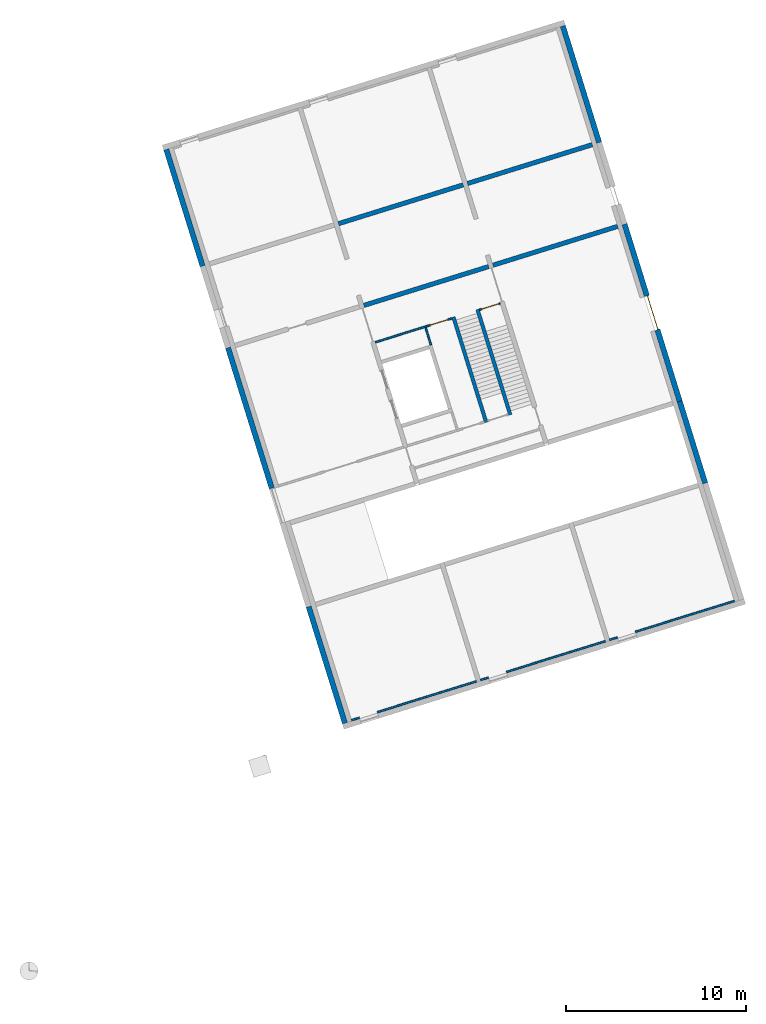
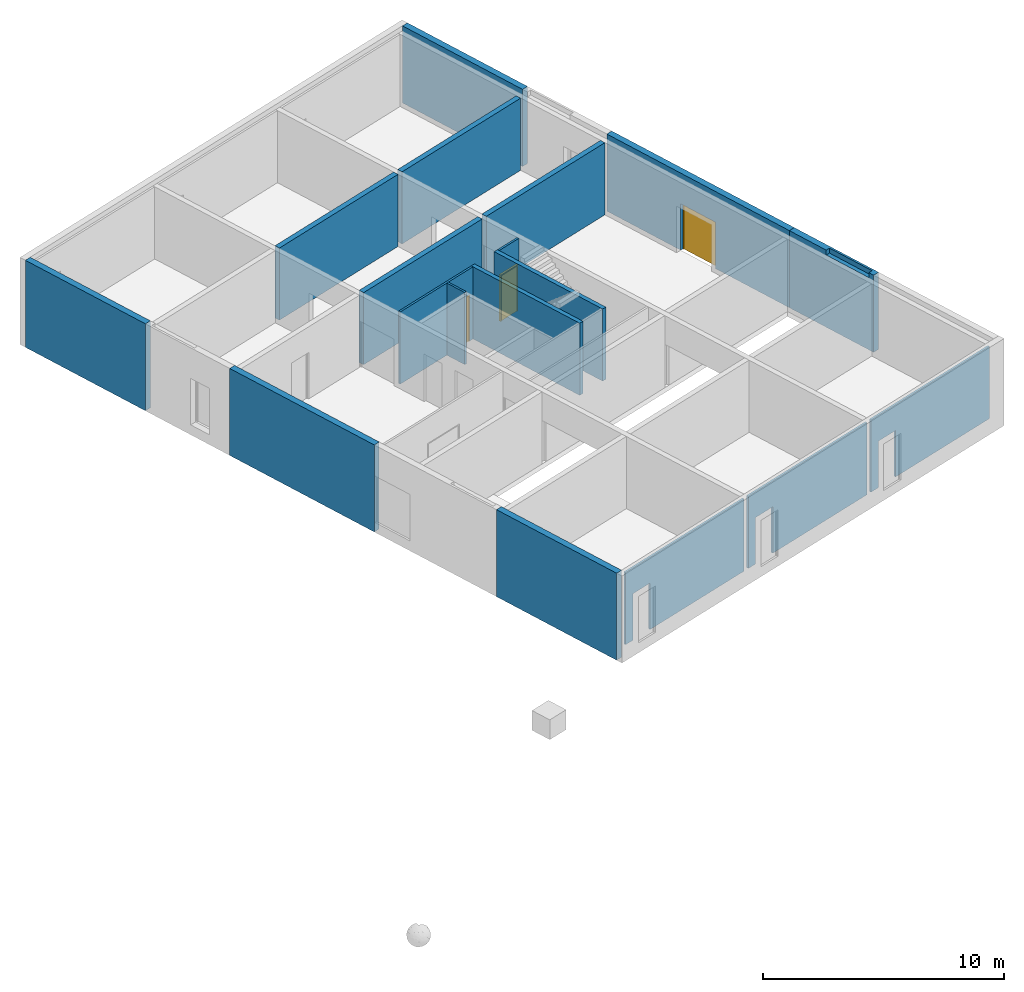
# One storey, part 2 of 6: 18 walls, 3 doors, 12 openings.
"""IFC4 building model written with IfcOpenShell, lengths in metres."""

from ifc_helpers import new_model, entity, si_unit, converted_unit, direction, frame, origin, place, context, subcontext, project, spatial, indexed_curve, outline, extrude, polygons, source, transform, mapped, material, constituent, constituent_set, type_object, type_shapes, element, fill, save


model = new_model("IFC4")

# Units and contexts
model_context = context("Model", 3, precision=1e-05, world=origin(), true_north=direction((6.12323399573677e-17, 1.0)))
body_context = subcontext(model_context, "Body", "Model", "MODEL_VIEW")
ifc_project = project(units=[si_unit("LENGTHUNIT", "METRE"), si_unit("AREAUNIT", "SQUARE_METRE"), si_unit("VOLUMEUNIT", "CUBIC_METRE"), converted_unit("PLANEANGLEUNIT", "DEGREE", entity("IfcPlaneAngleMeasure", 0.0174532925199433), si_unit("PLANEANGLEUNIT", "RADIAN"), dimensions=[0, 0, 0, 0, 0, 0, 0])], contexts=[model_context])

# Site, building, storey
site_placement = place(None, frame((13.1347999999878, 11.9886000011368, 0.0), z_axis=(0.0, 0.0, 1.0), x_axis=(0.954770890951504, 0.297342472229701, 0.0)))
site = spatial("IfcSite", under=ifc_project, at=site_placement, Name="Schiehaven", CompositionType="ELEMENT")
building_placement = place(site_placement, origin())
building = spatial("IfcBuilding", under=site, at=building_placement, Name="VORM huis", CompositionType="ELEMENT")
storey_placement = place(building_placement, origin())
storey = spatial("IfcBuildingStorey", under=building, at=storey_placement, Name="00 begane grond", CompositionType="ELEMENT", Elevation=0.0)

# Wall
ifc_material_1 = material(Name="beton_gewapend_ihw", Category="Miscellaneous")
wall_type_1 = type_object("IfcWallType", Name="Basic Wall:28_WA_skelet_wand 250mm_gen", PredefinedType="STANDARD")
wall_1_placement = place(storey_placement, frame((12.6250000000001, 22.2, 0.0)))
element("IfcWall", 1, at=wall_1_placement, inside=storey, type_object=wall_type_1, material=ifc_material_1, Name="Constructieve wand", ObjectType="Wand", PredefinedType="NOTDEFINED", context=body_context, shape_type="SweptSolid", body=[
    extrude(outline(indexed_curve([(7.25000000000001, 0.125000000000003), (-4.73312500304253e-16, 0.125000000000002), (4.73312500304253e-16, -0.125000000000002), (7.25000000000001, -0.125), (7.25000000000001, 0.125000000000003)], self_intersect=False)), origin(), (0.0, 0.0, 1.0), 3.65),
])

# Wall, opening
ifc_material_2 = material(Name="ntb_ntb_ntb", Category="Miscellaneous")
wall_type_2 = type_object("IfcWallType", Name="Basic Wall:21_WA_gevel_binnenspouwwand 100mm_gen", PredefinedType="STANDARD")
wall_2_placement = place(storey_placement, frame((5.12500000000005, 0.424999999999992, 0.0)))
wall_2 = element("IfcWall", 2, at=wall_2_placement, inside=storey, type_object=wall_type_2, material=ifc_material_2, Name="Binnenspouwblad", ObjectType="Wand", PredefinedType="NOTDEFINED", context=body_context, shape_type="Tessellation", body=[
    polygons([(1.49999999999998, -0.05, 2.34999999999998), (1.49999999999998, -0.05, 0.0), (7.24999999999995, -0.05, 0.0), (7.24999999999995, -0.05, 3.65), (-3.03464150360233e-16, -0.05, 3.65), (-3.03464150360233e-16, -0.05, 0.0), (0.449999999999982, -0.05, 0.0), (0.449999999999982, -0.05, 2.34999999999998), (7.24999999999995, 0.05, 0.0), (1.49999999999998, 0.0499999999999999, 0.0), (1.49999999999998, 0.0499999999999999, 2.34999999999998), (0.449999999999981, 0.05, 2.34999999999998), (0.449999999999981, 0.05, 0.0), (-6.7315249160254e-16, 0.05, 0.0), (-6.7315249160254e-16, 0.05, 3.65), (7.24999999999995, 0.05, 3.65)], [[[1, 2, 3, 4, 5, 6, 7, 8]], [[9, 10, 11, 12, 13, 14, 15, 16]], [[7, 6, 14, 13]], [[4, 3, 9, 16]], [[5, 4, 16, 15]], [[6, 5, 15, 14]], [[13, 12, 8, 7]], [[11, 10, 2, 1]], [[12, 11, 1, 8]], [[3, 2, 10, 9]]], closed=True),
])
opening_1_placement = place(wall_2_placement, origin())
element("IfcOpeningElement", 3, at=opening_1_placement, cuts=wall_2, Name="Woningtoegangsdeur", PredefinedType="OPENING", context=body_context, shape_type="SweptSolid", body=[
    extrude(outline(indexed_curve([(-0.525000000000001, -1.17499999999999), (0.525000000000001, -1.17499999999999), (0.525, 1.17499999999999), (-0.525000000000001, 1.17499999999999), (-0.525000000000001, -1.17499999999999)], self_intersect=False)), frame((0.974999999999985, -1.57399999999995, 1.17499999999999), z_axis=(0.0, 1.0, 0.0), x_axis=(1.0, 0.0, 0.0)), (0.0, 0.0, 1.0), 3.048),
])

wall_3_placement = place(storey_placement, frame((19.875, 0.424999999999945, 0.0), z_axis=(0.0, 0.0, 1.0), x_axis=(-1.0, 0.0, 0.0)))
wall_3 = element("IfcWall", 4, at=wall_3_placement, inside=storey, type_object=wall_type_2, material=ifc_material_2, Name="Binnenspouwblad", ObjectType="Wand", PredefinedType="NOTDEFINED", context=body_context, shape_type="Tessellation", body=[
    polygons([(-1.11061301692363e-15, -0.05, 0.0), (5.74999999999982, -0.05, 0.0), (5.74999999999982, -0.05, 2.34999999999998), (6.79999999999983, -0.05, 2.34999999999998), (6.79999999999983, -0.05, 0.0), (7.24999999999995, -0.0499999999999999, 0.0), (7.24999999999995, -0.0499999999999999, 3.65), (-1.11061301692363e-15, -0.05, 3.65), (5.74999999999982, 0.05, 2.34999999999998), (5.74999999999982, 0.05, 0.0), (-1.7886878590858e-15, 0.05, 0.0), (-1.7886878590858e-15, 0.05, 3.65), (7.24999999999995, 0.05, 3.65), (7.24999999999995, 0.05, 0.0), (6.79999999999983, 0.05, 0.0), (6.79999999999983, 0.05, 2.34999999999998)], [[[1, 2, 3, 4, 5, 6, 7, 8]], [[9, 10, 11, 12, 13, 14, 15, 16]], [[11, 10, 2, 1]], [[7, 6, 14, 13]], [[8, 7, 13, 12]], [[1, 8, 12, 11]], [[5, 4, 16, 15]], [[3, 2, 10, 9]], [[4, 3, 9, 16]], [[15, 14, 6, 5]]], closed=True),
])
opening_2_placement = place(wall_3_placement, origin())
element("IfcOpeningElement", 5, at=opening_2_placement, cuts=wall_3, Name="Woningtoegangsdeur", PredefinedType="OPENING", context=body_context, shape_type="SweptSolid", body=[
    extrude(outline(indexed_curve([(-1.17499999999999, -0.525), (1.17499999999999, -0.525), (1.17499999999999, 0.525000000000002), (-1.17499999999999, 0.525000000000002), (-1.17499999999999, -0.525)], self_intersect=False)), frame((6.27499999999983, -1.47400000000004, 1.17499999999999), z_axis=(0.0, 1.0, 0.0), x_axis=(0.0, 0.0, -1.0)), (0.0, 0.0, 1.0), 3.048),
])

wall_4_placement = place(storey_placement, frame((20.1250000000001, 0.424999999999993, 0.0)))
wall_4 = element("IfcWall", 6, at=wall_4_placement, inside=storey, type_object=wall_type_2, material=ifc_material_2, Name="Binnenspouwblad", ObjectType="Wand", PredefinedType="NOTDEFINED", context=body_context, shape_type="Tessellation", body=[
    polygons([(1.50000000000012, -0.05, 2.34999999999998), (1.50000000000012, -0.05, 0.0), (7.24999999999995, -0.05, 0.0), (7.24999999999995, -0.05, 3.65), (-1.38633127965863e-15, -0.05, 3.65), (-1.38633127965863e-15, -0.05, 0.0), (0.450000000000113, -0.05, 0.0), (0.450000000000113, -0.05, 2.34999999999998), (7.24999999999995, 0.05, 0.0), (1.50000000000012, 0.0499999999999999, 0.0), (1.50000000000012, 0.0499999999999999, 2.34999999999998), (0.450000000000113, 0.05, 2.34999999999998), (0.450000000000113, 0.05, 0.0), (-1.75601962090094e-15, 0.05, 0.0), (-1.75601962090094e-15, 0.05, 3.65), (7.24999999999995, 0.05, 3.65)], [[[1, 2, 3, 4, 5, 6, 7, 8]], [[9, 10, 11, 12, 13, 14, 15, 16]], [[7, 6, 14, 13]], [[4, 3, 9, 16]], [[5, 4, 16, 15]], [[6, 5, 15, 14]], [[13, 12, 8, 7]], [[11, 10, 2, 1]], [[12, 11, 1, 8]], [[3, 2, 10, 9]]], closed=True),
])
opening_3_placement = place(wall_4_placement, origin())
element("IfcOpeningElement", 7, at=opening_3_placement, cuts=wall_4, Name="Woningtoegangsdeur", PredefinedType="OPENING", context=body_context, shape_type="SweptSolid", body=[
    extrude(outline(indexed_curve([(-0.525000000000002, -1.17499999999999), (0.525000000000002, -1.17499999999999), (0.524999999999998, 1.17499999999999), (-0.525000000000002, 1.17499999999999), (-0.525000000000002, -1.17499999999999)], self_intersect=False)), frame((0.97500000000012, -1.57399999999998, 1.17499999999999), z_axis=(0.0, 1.0, 0.0), x_axis=(1.0, 0.0, 0.0)), (0.0, 0.0, 1.0), 3.048),
])

wall_type_3 = type_object("IfcWallType", Name="Basic Wall: 300mm_gen", PredefinedType="STANDARD")
wall_5_placement = place(storey_placement, frame((4.72500000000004, 0.375000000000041, -0.5), z_axis=(0.0, 0.0, 1.0), x_axis=(0.0, 1.0, 0.0)))
wall_5 = element("IfcWall", 8, at=wall_5_placement, inside=storey, type_object=wall_type_3, material=ifc_material_2, Name="Gevelwand", ObjectType="Wand", PredefinedType="NOTDEFINED", context=body_context, shape_type="Tessellation", body=[
    polygons([(4.06075173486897e-16, -0.15, 0.0), (6.77500000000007, -0.15, 0.0), (6.77500000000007, -0.15, 4.4), (8.79829542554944e-16, -0.15, 4.4), (8.79829542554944e-16, -0.15, 4.15), (3.38395977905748e-16, -0.15, 0.5), (2.70716782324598e-16, 0.15, 0.0), (2.70716782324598e-16, 0.15, 4.4), (6.77500000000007, 0.150000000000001, 4.4), (6.77500000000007, 0.150000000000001, 0.0)], [[[1, 2, 3, 4, 5, 6]], [[7, 8, 9, 10]], [[2, 1, 7, 10]], [[3, 2, 10, 9]], [[4, 3, 9, 8]], [[1, 6, 5, 4, 8, 7]]], closed=True),
])
opening_4_placement = place(wall_5_placement, origin())
element("IfcOpeningElement", 9, at=opening_4_placement, cuts=wall_5, Name="Vluchtdeur", PredefinedType="OPENING", context=body_context, shape_type="SweptSolid", body=[
    extrude(outline(indexed_curve([(-0.525000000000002, -1.17499999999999), (0.525000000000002, -1.17499999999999), (0.524999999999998, 1.17499999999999), (-0.525000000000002, 1.17499999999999), (-0.525000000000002, -1.17499999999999)], self_intersect=False)), frame((23.4999999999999, -1.92400000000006, 1.67499999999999), z_axis=(0.0, 1.0, 0.0), x_axis=(1.0, 0.0, 0.0)), (0.0, 0.0, 1.0), 3.048),
])

# Wall
wall_6_placement = place(storey_placement, frame((27.7750000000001, 33.7249999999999, 0.0), z_axis=(0.0, 0.0, 1.0), x_axis=(0.0, -1.0, 0.0)))
element("IfcWall", 10, at=wall_6_placement, inside=storey, type_object=wall_type_3, material=ifc_material_2, Name="Gevelwand", ObjectType="Wand", PredefinedType="NOTDEFINED", context=body_context, shape_type="SweptSolid", body=[
    extrude(outline(indexed_curve([(6.77500000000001, 0.15), (-2.81467268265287e-16, 0.150000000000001), (2.81467268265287e-16, -0.150000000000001), (6.77500000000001, -0.150000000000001), (6.77500000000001, 0.15)], self_intersect=False)), origin(), (0.0, 0.0, 1.0), 3.9),
])

# Wall, opening
wall_7_placement = place(storey_placement, frame((4.7250000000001, 26.95, -0.5), z_axis=(0.0, 0.0, 1.0), x_axis=(0.0, 1.0, 0.0)))
wall_7 = element("IfcWall", 11, at=wall_7_placement, inside=storey, type_object=wall_type_3, material=ifc_material_2, Name="Gevelwand", ObjectType="Wand", PredefinedType="NOTDEFINED", context=body_context, shape_type="Tessellation", body=[
    polygons([(0.0, -0.15, 0.0), (6.77499999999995, -0.15, 0.0), (6.77499999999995, -0.15, 0.5), (6.77499999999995, -0.15, 4.15), (6.77499999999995, -0.15, 4.4), (0.0, -0.15, 4.4), (0.0, 0.15, 0.0), (0.0, 0.15, 4.4), (6.77499999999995, 0.15, 4.4), (6.77499999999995, 0.15, 0.0)], [[[1, 2, 3, 4, 5, 6]], [[7, 8, 9, 10]], [[2, 1, 7, 10]], [[6, 5, 9, 8]], [[1, 6, 8, 7]], [[5, 4, 3, 2, 10, 9]]], closed=True),
])
opening_5_placement = place(wall_7_placement, origin())
element("IfcOpeningElement", 12, at=opening_5_placement, cuts=wall_7, Name="Vluchtdeur", PredefinedType="OPENING", context=body_context, shape_type="SweptSolid", body=[
    extrude(outline(indexed_curve([(-0.525000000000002, -1.17499999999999), (0.525000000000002, -1.17499999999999), (0.524999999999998, 1.17499999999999), (-0.525000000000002, 1.17499999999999), (-0.525000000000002, -1.17499999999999)], self_intersect=False)), frame((-3.07500000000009, -1.92400000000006, 1.67499999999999), z_axis=(0.0, 1.0, 0.0), x_axis=(1.0, 0.0, 0.0)), (0.0, 0.0, 1.0), 3.048),
])

# Wall
wall_8_placement = place(storey_placement, frame((27.7750000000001, 11.905, 0.0), z_axis=(0.0, 0.0, 1.0), x_axis=(0.0, -1.0, 0.0)))
element("IfcWall", 13, at=wall_8_placement, inside=storey, type_object=wall_type_3, material=ifc_material_2, Name="Gevelwand", ObjectType="Wand", PredefinedType="NOTDEFINED", context=body_context, shape_type="Tessellation", body=[
    polygons([(0.0, -0.150000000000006, 0.0), (4.75499999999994, -0.150000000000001, 0.0), (4.75499999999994, -0.150000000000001, 3.9), (4.4799999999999, -0.150000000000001, 3.9), (4.4799999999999, -0.150000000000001, 3.65), (2.0799999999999, -0.150000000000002, 3.65), (2.0799999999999, -0.150000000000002, 3.9), (0.0, -0.150000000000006, 3.9), (4.75499999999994, 0.15, 0.0), (-1.77635683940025e-15, 0.149999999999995, 0.0), (-1.77635683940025e-15, 0.149999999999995, 3.9), (4.75499999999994, 0.15, 3.9), (2.0799999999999, 0.0499999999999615, 3.9), (4.47999999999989, 0.0499999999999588, 3.9), (4.47999999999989, 0.0499999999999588, 3.65), (2.0799999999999, 0.0499999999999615, 3.65)], [[[1, 2, 3, 4, 5, 6, 7, 8]], [[9, 10, 11, 12]], [[2, 1, 10, 9]], [[3, 2, 9, 12]], [[12, 11, 8, 7, 13, 14, 4, 3]], [[1, 8, 11, 10]], [[15, 16, 6, 5]], [[14, 15, 5, 4]], [[16, 15, 14, 13]], [[16, 13, 7, 6]]], closed=True),
])

# Wall, openings, door
wall_9_placement = place(storey_placement, frame((27.7750000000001, 22.2, 0.0), z_axis=(0.0, 0.0, 1.0), x_axis=(0.0, -1.0, 0.0)))
wall_9 = element("IfcWall", 14, at=wall_9_placement, inside=storey, type_object=wall_type_3, material=ifc_material_2, Name="Gevelwand", ObjectType="Wand", PredefinedType="NOTDEFINED", context=body_context, shape_type="Tessellation", body=[
    polygons([(6.13249999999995, -0.15, 2.34999999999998), (6.13249999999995, -0.15, 0.0), (10.295, -0.150000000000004, 0.0), (10.295, -0.150000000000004, 3.9), (0.0, -0.15, 3.9), (0.0, -0.15, 0.0), (4.16749999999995, -0.149999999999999, 0.0), (4.16749999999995, -0.149999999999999, 2.34999999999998), (10.295, 0.149999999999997, 0.0), (6.13249999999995, 0.150000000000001, 0.0), (6.13249999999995, 0.150000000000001, 2.34999999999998), (4.16749999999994, 0.150000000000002, 2.34999999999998), (4.16749999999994, 0.150000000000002, 0.0), (-4.33146851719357e-15, 0.150000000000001, 0.0), (-4.33146851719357e-15, 0.150000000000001, 3.9), (10.295, 0.149999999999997, 3.9)], [[[1, 2, 3, 4, 5, 6, 7, 8]], [[9, 10, 11, 12, 13, 14, 15, 16]], [[7, 6, 14, 13]], [[4, 3, 9, 16]], [[5, 4, 16, 15]], [[6, 5, 15, 14]], [[12, 11, 1, 8]], [[11, 10, 2, 1]], [[13, 12, 8, 7]], [[3, 2, 10, 9]]], closed=True),
])
opening_6_placement = place(wall_9_placement, frame((4.16749999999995, -0.150000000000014, 0.0)))
opening_6 = element("IfcOpeningElement", 15, at=opening_6_placement, cuts=wall_9, Name="Vluchtdeur", PredefinedType="OPENING", context=body_context, shape_type="SweptSolid", body=[
    extrude(outline(indexed_curve([(2.34999999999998, 0.0), (2.34999999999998, 1.965), (0.0, 1.965), (0.0, 0.0), (2.34999999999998, 0.0)], self_intersect=False)), frame((0.0, 0.0, 0.0), z_axis=(0.0, 1.0, 0.0), x_axis=(0.0, 0.0, 1.0)), (0.0, 0.0, 1.0), 0.3),
])
opening_7_placement = place(wall_9_placement, frame((22.2, -27.7750000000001, 0.0), z_axis=(0.0, 0.0, 1.0), x_axis=(0.0, 1.0, 0.0)))
element("IfcOpeningElement", 16, at=opening_7_placement, cuts=wall_9, Name="Vluchtdeur", PredefinedType="OPENING", context=body_context, shape_type="SweptSolid", body=[
    extrude(outline(indexed_curve([(-0.982500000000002, -1.17499999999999), (0.982500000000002, -1.17499999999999), (0.9825, 1.17499999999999), (-0.982500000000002, 1.17499999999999), (-0.982500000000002, -1.17499999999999)], self_intersect=False)), frame((26.1010000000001, 17.05, 1.17499999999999), z_axis=(1.0, 0.0, 0.0), x_axis=(0.0, -1.0, 0.0)), (0.0, 0.0, 1.0), 3.048),
])
ifc_material_3 = material(Name="PD_a_buitenwandopeningen", Category="Miscellaneous")
ifc_constituent_1 = constituent(ifc_material_3, Name="PD_a_buitenwandopeningen", Category="Miscellaneous")
ifc_material_4 = material(Name="metaal_aluminium_ntb", Category="Miscellaneous")
ifc_constituent_2 = constituent(ifc_material_4, Name="metaal_aluminium_ntb", Category="Miscellaneous")
ifc_constituent_set_1 = constituent_set(constituents=[ifc_constituent_1, ifc_constituent_2])
ifc_constituent_3 = constituent(ifc_material_3, Name="PD_a_buitenwandopeningen", Category="Miscellaneous")
ifc_constituent_4 = constituent(ifc_material_4, Name="Panel", Category="Miscellaneous")
ifc_constituent_set_2 = constituent_set(constituents=[ifc_constituent_3, ifc_constituent_4])
door_type_1 = type_object("IfcDoorType", Name="31_DO_buitendeur dubbel:buitendeur zelfsluitend 30min", OperationType="NOTDEFINED", PredefinedType="DOOR", material=ifc_constituent_set_2)
shared_shape_1 = source(origin(), body_context, "Body", "SweptSolid", [
    extrude(outline(indexed_curve([(0.932499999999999, -1.16249999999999), (0.982500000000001, -1.16249999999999), (0.982500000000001, 1.18749999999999), (-0.982500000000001, 1.18749999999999), (-0.982500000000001, -1.16249999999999), (-0.932499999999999, -1.16249999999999), (-0.9325, 1.13749999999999), (0.932499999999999, 1.13749999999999), (0.932499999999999, -1.16249999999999)], self_intersect=False)), frame((0.982500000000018, 0.230000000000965, 1.16249999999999), z_axis=(0.0, -1.0, 0.0), x_axis=(1.0, 0.0, 0.0)), (0.0, 0.0, 1.0), 0.1),
    extrude(outline(indexed_curve([(-0.466249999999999, -0.025), (0.466249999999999, -0.025), (0.466249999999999, 0.025), (-0.466249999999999, 0.025), (-0.466249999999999, -0.025)], self_intersect=False)), frame((0.516250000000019, 0.180000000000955, 0.0)), (0.0, 0.0, 1.0), 2.29999999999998),
    extrude(outline(indexed_curve([(-0.46625, -0.025), (0.46625, -0.025), (0.46625, 0.025), (-0.46625, 0.025), (-0.46625, -0.025)], self_intersect=False)), frame((1.44875000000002, 0.180000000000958, 0.0)), (0.0, 0.0, 1.0), 2.29999999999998),
])
type_shapes(door_type_1, [shared_shape_1])
door_1_placement = place(opening_6_placement, origin())
door_1 = element("IfcDoor", 17, at=door_1_placement, inside=storey, type_object=door_type_1, material=ifc_constituent_set_1, Name="Vluchtdeur", ObjectType="Deur", OperationType="NOTDEFINED", OverallHeight=2.34999999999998, OverallWidth=1.965, PredefinedType="DOOR", context=body_context, shape_type="MappedRepresentation", body=[
    mapped(shared_shape_1, transform((0.0, 0.0, 0.0), scale=1.0)),
])
fill(opening_6, door_1)

# Wall, opening
wall_10_placement = place(storey_placement, frame((4.72500000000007, 14.0400000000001, -0.5), z_axis=(0.0, 0.0, 1.0), x_axis=(0.0, 1.0, 0.0)))
wall_10 = element("IfcWall", 18, at=wall_10_placement, inside=storey, type_object=wall_type_3, material=ifc_material_2, Name="Gevelwand", ObjectType="Wand", PredefinedType="NOTDEFINED", context=body_context, shape_type="Tessellation", body=[
    polygons([(4.33146851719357e-15, -0.149999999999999, 0.0), (8.15999999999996, -0.15, 0.0), (8.15999999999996, -0.15, 4.4), (4.33146851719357e-15, -0.149999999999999, 4.4), (2.16573425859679e-15, 0.15, 0.0), (2.16573425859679e-15, 0.15, 4.4), (8.15999999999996, 0.15, 4.4), (8.15999999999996, 0.15, 0.0)], [[[1, 2, 3, 4]], [[5, 6, 7, 8]], [[2, 1, 5, 8]], [[3, 2, 8, 7]], [[4, 3, 7, 6]], [[1, 4, 6, 5]]], closed=True),
])
opening_8_placement = place(wall_10_placement, origin())
element("IfcOpeningElement", 19, at=opening_8_placement, cuts=wall_10, Name="Vluchtdeur", PredefinedType="OPENING", context=body_context, shape_type="SweptSolid", body=[
    extrude(outline(indexed_curve([(-0.525000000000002, -1.17499999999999), (0.525000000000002, -1.17499999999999), (0.524999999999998, 1.17499999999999), (-0.525000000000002, 1.17499999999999), (-0.525000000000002, -1.17499999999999)], self_intersect=False)), frame((9.83499999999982, -1.92400000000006, 1.67499999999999), z_axis=(0.0, 1.0, 0.0), x_axis=(1.0, 0.0, 0.0)), (0.0, 0.0, 1.0), 3.048),
])

# Walls
ifc_material_5 = material(Name="beton_gewapend_prefab-element", Category="Miscellaneous")
wall_type_4 = type_object("IfcWallType", Name="Basic Wall:28_WA_skelet_wand 200mm_gen", PredefinedType="STANDARD")
wall_11_placement = place(storey_placement, frame((17.1750000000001, 13.99, 0.0), z_axis=(0.0, 0.0, 1.0), x_axis=(0.0, 1.0, 0.0)))
element("IfcWall", 20, at=wall_11_placement, inside=storey, type_object=wall_type_4, material=ifc_material_5, Name="Constructieve wand", ObjectType="Wand", PredefinedType="NOTDEFINED", context=body_context, shape_type="SweptSolid", body=[
    extrude(outline(indexed_curve([(6.12000000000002, 0.0999999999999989), (-5.30817220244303e-16, 0.0999999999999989), (5.30817220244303e-16, -0.0999999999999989), (6.12000000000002, -0.0999999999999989), (6.12000000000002, 0.0999999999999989)], self_intersect=False)), origin(), (0.0, 0.0, 1.0), 3.65),
])
wall_12_placement = place(storey_placement, frame((18.5750000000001, 13.99, 0.0), z_axis=(0.0, 0.0, 1.0), x_axis=(0.0, 1.0, 0.0)))
element("IfcWall", 21, at=wall_12_placement, inside=storey, type_object=wall_type_4, material=ifc_material_5, Name="Constructieve wand", ObjectType="Wand", PredefinedType="NOTDEFINED", context=body_context, shape_type="SweptSolid", body=[
    extrude(outline(indexed_curve([(6.12000000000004, 0.0999999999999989), (-6.36980664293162e-16, 0.0999999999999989), (6.36980664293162e-16, -0.0999999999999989), (6.12000000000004, -0.0999999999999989), (6.12000000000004, 0.0999999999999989)], self_intersect=False)), origin(), (0.0, 0.0, 1.0), 3.65),
])
wall_type_5 = type_object("IfcWallType", Name="Basic Wall:22_WA_afbouw_binnenwand 250mm_gen", PredefinedType="STANDARD")
wall_13_placement = place(storey_placement, frame((20.1250000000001, 26.9499999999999, 0.0)))
element("IfcWall", 22, at=wall_13_placement, inside=storey, type_object=wall_type_5, material=ifc_material_2, Name="Binnenwand", ObjectType="Wand", PredefinedType="NOTDEFINED", context=body_context, shape_type="SweptSolid", body=[
    extrude(outline(indexed_curve([(7.24999999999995, 0.124999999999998), (-6.13193370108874e-16, 0.125000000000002), (6.13193370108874e-16, -0.125000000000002), (7.24999999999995, -0.125000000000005), (7.24999999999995, 0.124999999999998)], self_intersect=False)), origin(), (0.0, 0.0, 1.0), 3.65),
])
wall_14_placement = place(storey_placement, frame((12.6250000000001, 26.95, 0.0)))
element("IfcWall", 23, at=wall_14_placement, inside=storey, type_object=wall_type_5, material=ifc_material_2, Name="Binnenwand", ObjectType="Wand", PredefinedType="NOTDEFINED", context=body_context, shape_type="SweptSolid", body=[
    extrude(outline(indexed_curve([(7.24999999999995, 0.124999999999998), (-6.13193370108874e-16, 0.125000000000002), (6.13193370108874e-16, -0.125000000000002), (7.24999999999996, -0.125000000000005), (7.24999999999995, 0.124999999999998)], self_intersect=False)), origin(), (0.0, 0.0, 1.0), 3.65),
])
wall_15_placement = place(storey_placement, frame((20.1250000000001, 22.2, 0.0)))
element("IfcWall", 24, at=wall_15_placement, inside=storey, type_object=wall_type_5, material=ifc_material_2, Name="Binnenwand", ObjectType="Wand", PredefinedType="NOTDEFINED", context=body_context, shape_type="SweptSolid", body=[
    extrude(outline(indexed_curve([(7.24999999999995, 0.124999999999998), (-6.13193370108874e-16, 0.125000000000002), (6.13193370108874e-16, -0.125000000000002), (7.24999999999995, -0.125000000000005), (7.24999999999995, 0.124999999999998)], self_intersect=False)), origin(), (0.0, 0.0, 1.0), 3.65),
])

# Wall, openings, door
wall_type_6 = type_object("IfcWallType", Name="Basic Wall:22_WA_afbouw_binnenwand 100mm_gen", PredefinedType="STANDARD")
wall_16_placement = place(storey_placement, frame((19.8750000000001, 20.06, 0.0), z_axis=(0.0, 0.0, 1.0), x_axis=(-1.0, 0.0, 0.0)))
wall_16 = element("IfcWall", 25, at=wall_16_placement, inside=storey, type_object=wall_type_6, material=ifc_material_2, Name="Binnenwand", ObjectType="Wand", PredefinedType="NOTDEFINED", context=body_context, shape_type="Tessellation", body=[
    polygons([(0.0, -0.0499999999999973, 0.0), (0.049999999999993, -0.0499999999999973, 0.0), (0.049999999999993, -0.0499999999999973, 2.34999999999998), (1.09999999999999, -0.0499999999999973, 2.34999999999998), (1.09999999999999, -0.0499999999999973, 0.0), (1.19999999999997, -0.0499999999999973, 0.0), (1.19999999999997, -0.0499999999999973, 3.65), (0.0, -0.0499999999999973, 3.65), (0.049999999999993, 0.0500000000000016, 2.34999999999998), (0.049999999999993, 0.0500000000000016, 0.0), (0.0, 0.0500000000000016, 0.0), (0.0, 0.0500000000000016, 3.65), (1.19999999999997, 0.0500000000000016, 3.65), (1.19999999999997, 0.0500000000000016, 0.0), (1.09999999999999, 0.0500000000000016, 0.0), (1.09999999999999, 0.0500000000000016, 2.34999999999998)], [[[1, 2, 3, 4, 5, 6, 7, 8]], [[9, 10, 11, 12, 13, 14, 15, 16]], [[11, 10, 2, 1]], [[7, 6, 14, 13]], [[8, 7, 13, 12]], [[1, 8, 12, 11]], [[5, 4, 16, 15]], [[3, 2, 10, 9]], [[4, 3, 9, 16]], [[15, 14, 6, 5]]], closed=True),
])
opening_9_placement = place(wall_16_placement, frame((1.09999999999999, 0.0500000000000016, 0.0)))
opening_9 = element("IfcOpeningElement", 26, at=opening_9_placement, cuts=wall_16, Name="Vluchtdeur", PredefinedType="OPENING", context=body_context, shape_type="SweptSolid", body=[
    extrude(outline(indexed_curve([(2.34999999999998, 0.0), (2.34999999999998, 1.05), (0.0, 1.05), (0.0, 0.0), (2.34999999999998, 0.0)], self_intersect=False)), frame((0.0, 0.0, 0.0), z_axis=(0.0, -1.0, 0.0), x_axis=(0.0, 0.0, 1.0)), (0.0, 0.0, 1.0), 0.1),
])
opening_10_placement = place(wall_16_placement, frame((19.8750000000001, 20.06, 0.0), z_axis=(0.0, 0.0, 1.0), x_axis=(-1.0, 0.0, 0.0)))
element("IfcOpeningElement", 27, at=opening_10_placement, cuts=wall_16, Name="Vluchtdeur", PredefinedType="OPENING", context=body_context, shape_type="SweptSolid", body=[
    extrude(outline(indexed_curve([(-1.17499999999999, -0.525), (1.17499999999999, -0.525), (1.17499999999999, 0.525000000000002), (-1.17499999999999, 0.525000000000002), (-1.17499999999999, -0.525)], self_intersect=False)), frame((19.3000000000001, 21.534, 1.17499999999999), z_axis=(0.0, -1.0, 0.0), x_axis=(0.0, 0.0, -1.0)), (0.0, 0.0, 1.0), 3.048),
])
ifc_material_6 = material(Name="PD_a_binnenwandopeningen", Category="Miscellaneous")
ifc_constituent_5 = constituent(ifc_material_6, Name="PD_a_binnenwandopeningen", Category="Miscellaneous")
ifc_constituent_6 = constituent(ifc_material_4, Name="metaal_aluminium_ntb", Category="Miscellaneous")
ifc_constituent_set_3 = constituent_set(constituents=[ifc_constituent_5, ifc_constituent_6])
ifc_constituent_7 = constituent(ifc_material_6, Name="PD_a_binnenwandopeningen", Category="Miscellaneous")
ifc_constituent_8 = constituent(ifc_material_4, Name="Panel", Category="Miscellaneous")
ifc_constituent_set_4 = constituent_set(constituents=[ifc_constituent_7, ifc_constituent_8])
door_type_2 = type_object("IfcDoorType", Name="32_DO_binnendeur enkel:binnendeur zelfsluitend 30min", OperationType="NOTDEFINED", PredefinedType="DOOR", material=ifc_constituent_set_4)
shared_shape_2 = source(origin(), body_context, "Body", "SweptSolid", [
    extrude(outline(indexed_curve([(0.475, -1.16249999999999), (0.525, -1.16249999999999), (0.525, 1.18749999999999), (-0.525, 1.18749999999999), (-0.525, -1.16249999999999), (-0.475, -1.16249999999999), (-0.475, 1.13749999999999), (0.475, 1.13749999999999), (0.475, -1.16249999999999)], self_intersect=False)), frame((0.525000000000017, 0.100000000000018, 1.16249999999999), z_axis=(0.0, -1.0, 0.0), x_axis=(1.0, 0.0, 0.0)), (0.0, 0.0, 1.0), 0.1),
    extrude(outline(indexed_curve([(-0.475, -0.025), (0.475, -0.025), (0.475, 0.025), (-0.475, 0.025), (-0.475, -0.025)], self_intersect=False)), frame((0.525000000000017, 0.0499999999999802, 0.0)), (0.0, 0.0, 1.0), 2.29999999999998),
])
type_shapes(door_type_2, [shared_shape_2])
door_2_placement = place(opening_9_placement, frame((0.0, 0.0, 0.0), z_axis=(0.0, 0.0, 1.0), x_axis=(-1.0, 0.0, 0.0)))
door_2 = element("IfcDoor", 28, at=door_2_placement, inside=storey, type_object=door_type_2, material=ifc_constituent_set_3, Name="Vluchtdeur", ObjectType="Deur", OperationType="NOTDEFINED", OverallHeight=2.34999999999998, OverallWidth=1.05, PredefinedType="DOOR", context=body_context, shape_type="MappedRepresentation", body=[
    mapped(shared_shape_2, transform((0.0, 0.0, 0.0), scale=1.0)),
])
fill(opening_9, door_2)

# Wall
wall_17_placement = place(storey_placement, frame((15.5250000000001, 20.01, 0.0), z_axis=(0.0, 0.0, 1.0), x_axis=(0.0, -1.0, 0.0)))
element("IfcWall", 29, at=wall_17_placement, inside=storey, type_object=wall_type_6, material=ifc_material_2, Name="Binnenwand", ObjectType="Wand", PredefinedType="NOTDEFINED", context=body_context, shape_type="SweptSolid", body=[
    extrude(outline(indexed_curve([(1.01000000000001, 0.0499999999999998), (-1.56276042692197e-17, 0.0499999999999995), (1.56276042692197e-17, -0.0499999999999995), (1.01000000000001, -0.0499999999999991), (1.01000000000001, 0.0499999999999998)], self_intersect=False)), origin(), (0.0, 0.0, 1.0), 3.65),
])

# Wall, openings, door
wall_18_placement = place(storey_placement, frame((17.0750000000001, 20.06, 0.0), z_axis=(0.0, 0.0, 1.0), x_axis=(-1.0, 0.0, 0.0)))
wall_18 = element("IfcWall", 30, at=wall_18_placement, inside=storey, type_object=wall_type_6, material=ifc_material_2, Name="Binnenwand", ObjectType="Wand", PredefinedType="NOTDEFINED", context=body_context, shape_type="Tessellation", body=[
    polygons([(2.00026242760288e-15, -0.0499999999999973, 0.0), (0.224999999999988, -0.0499999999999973, 0.0), (0.22499999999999, -0.0499999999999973, 2.34999999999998), (1.27499999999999, -0.0500000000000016, 2.34999999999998), (1.27499999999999, -0.0500000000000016, 0.0), (4.45000000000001, -0.0499999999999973, 0.0), (4.45000000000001, -0.0499999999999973, 3.65), (2.00026242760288e-15, -0.0499999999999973, 3.65), (0.22499999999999, 0.0500000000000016, 2.34999999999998), (0.224999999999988, 0.0500000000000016, 0.0), (2.19493516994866e-15, 0.0500000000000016, 0.0), (2.19493516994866e-15, 0.0500000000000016, 3.65), (1.50000000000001, 0.0499999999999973, 3.65), (1.6, 0.0499999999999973, 3.65), (4.45000000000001, 0.0500000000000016, 3.65), (4.45000000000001, 0.0500000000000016, 0.0), (1.6, 0.0499999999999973, 0.0), (1.50000000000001, 0.0499999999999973, 0.0), (1.27499999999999, 0.0499999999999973, 0.0), (1.27499999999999, 0.0499999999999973, 2.34999999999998)], [[[1, 2, 3, 4, 5, 6, 7, 8]], [[9, 10, 11, 12, 13, 14, 15, 16, 17, 18, 19, 20]], [[11, 10, 2, 1]], [[7, 6, 16, 15]], [[8, 7, 15, 14, 13, 12]], [[1, 8, 12, 11]], [[4, 3, 9, 20]], [[3, 2, 10, 9]], [[5, 4, 20, 19]], [[19, 18, 17, 16, 6, 5]]], closed=True),
])
opening_11_placement = place(wall_18_placement, frame((1.27499999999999, 0.0500000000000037, 0.0)))
opening_11 = element("IfcOpeningElement", 31, at=opening_11_placement, cuts=wall_18, Name="Vluchtdeur", PredefinedType="OPENING", context=body_context, shape_type="SweptSolid", body=[
    extrude(outline(indexed_curve([(2.34999999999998, 1.353583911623e-15), (2.34999999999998, 1.05), (0.0, 1.05), (0.0, 1.353583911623e-15), (2.34999999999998, 1.353583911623e-15)], self_intersect=False)), frame((0.0, 0.0, 0.0), z_axis=(0.0, -1.0, 0.0), x_axis=(0.0, 0.0, 1.0)), (0.0, 0.0, 1.0), 0.1),
])
opening_12_placement = place(wall_18_placement, frame((17.0750000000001, 20.06, 0.0), z_axis=(0.0, 0.0, 1.0), x_axis=(-1.0, 0.0, 0.0)))
element("IfcOpeningElement", 32, at=opening_12_placement, cuts=wall_18, Name="Vluchtdeur", PredefinedType="OPENING", context=body_context, shape_type="SweptSolid", body=[
    extrude(outline(indexed_curve([(-1.17499999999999, -0.525), (1.17499999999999, -0.524999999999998), (1.17499999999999, 0.525000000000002), (-1.17499999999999, 0.525000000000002), (-1.17499999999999, -0.525)], self_intersect=False)), frame((16.3250000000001, 21.534, 1.17499999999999), z_axis=(0.0, -1.0, 0.0), x_axis=(0.0, 0.0, -1.0)), (0.0, 0.0, 1.0), 3.048),
])
ifc_constituent_9 = constituent(ifc_material_6, Name="PD_a_binnenwandopeningen", Category="Miscellaneous")
ifc_constituent_10 = constituent(ifc_material_4, Name="metaal_aluminium_ntb", Category="Miscellaneous")
ifc_constituent_set_5 = constituent_set(constituents=[ifc_constituent_9, ifc_constituent_10])
door_3_placement = place(opening_11_placement, frame((0.0, 0.0, 0.0), z_axis=(0.0, 0.0, 1.0), x_axis=(-1.0, 0.0, 0.0)))
door_3 = element("IfcDoor", 33, at=door_3_placement, inside=storey, type_object=door_type_2, material=ifc_constituent_set_5, Name="Vluchtdeur", ObjectType="Deur", OperationType="NOTDEFINED", OverallHeight=2.34999999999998, OverallWidth=1.05, PredefinedType="DOOR", context=body_context, shape_type="MappedRepresentation", body=[
    mapped(shared_shape_2, transform((0.0, 0.0, 0.0), scale=1.0)),
])
fill(opening_11, door_3)

save(model, "model.ifc")
